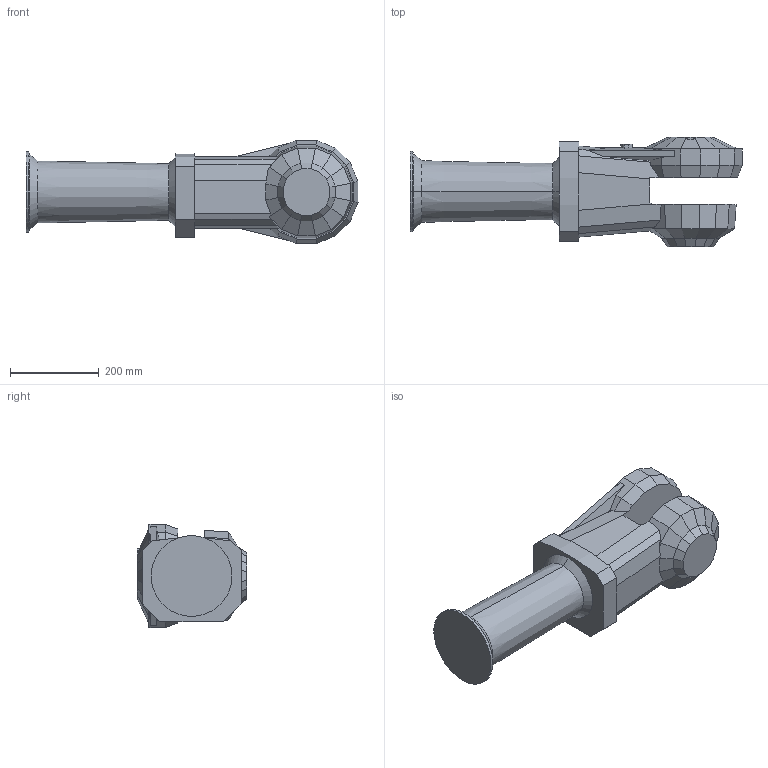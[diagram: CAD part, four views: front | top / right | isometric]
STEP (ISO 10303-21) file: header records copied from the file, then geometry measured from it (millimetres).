
FILE_DESCRIPTION (( 'STEP AP214' ), '1' );
FILE_NAME ('IRB4400_60_m2000_rev1_01-10.STEP', '2001-11-21T06:51:37', ( 'Jonas Eriksson' ), ( 'Evotech Engineering AB' ), 'SwSTEP 2.0', 'SolidWorks 2001287', '' );
FILE_SCHEMA (( 'AUTOMOTIVE_DESIGN' ));
Length unit declared in the file: millimetre
Products named in the file (1): IRB4400_60_m2000_rev1_01-10
Bounding box: 747.4 x 245.97 x 232 mm (x, y, z)
Volume: 16885585.9 mm3; surface area: 577689.5 mm2
Topology: 1 solids, 1 shells, 185 faces, 489 edges, 310 vertices
Faces by surface type: plane 171, cone 8, cylinder 4, bspline 2
Entity records: 6079 total; most frequent: CARTESIAN_POINT 1521, ORIENTED_EDGE 978, DIRECTION 859, EDGE_CURVE 489, LINE 459, VECTOR 459, VERTEX_POINT 310, AXIS2_PLACEMENT_3D 200
